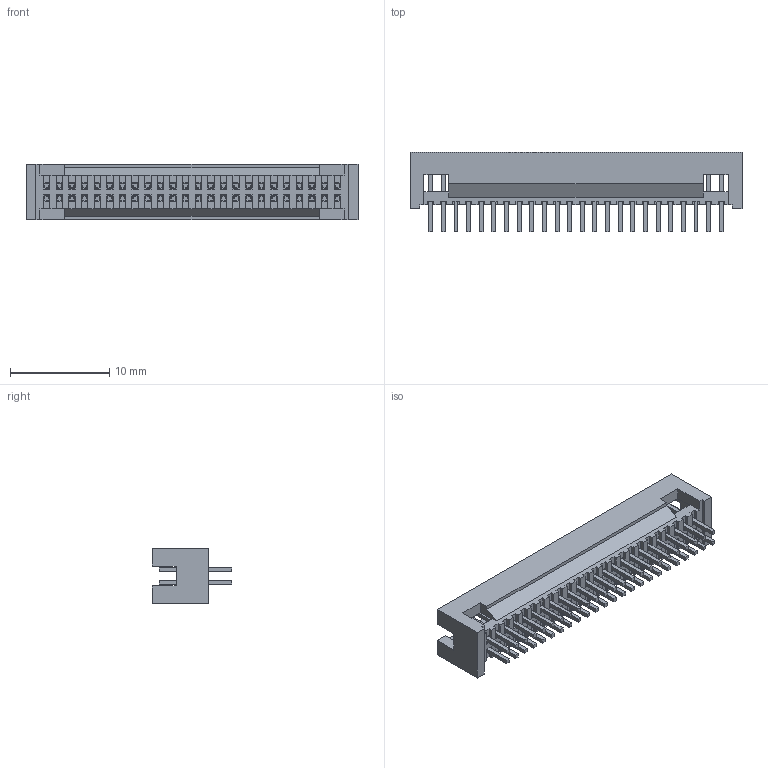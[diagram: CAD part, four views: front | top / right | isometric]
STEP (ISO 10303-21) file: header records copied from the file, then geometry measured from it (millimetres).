
FILE_DESCRIPTION (( 'STEP AP214' ), '1' );
FILE_NAME ('HC-JN127-2-24-Z-5.7-XX (潠籟1.27 邧齬 眻渀-HCTL).STEP', '2024-12-18T02:43:55', ( '' ), ( '' ), 'SwSTEP 2.0', 'SolidWorks 2022', '' );
FILE_SCHEMA (( 'AUTOMOTIVE_DESIGN' ));
Length unit declared in the file: millimetre
Products named in the file (1): HC-JN127-2-24-Z-5.7-XX (潠籟1.27 邧齬 眻渀-HCTL)
Bounding box: 33.38 x 8 x 5.6 mm (x, y, z)
Volume: 490.3 mm3; surface area: 1572.2 mm2
Topology: 1 solids, 1 shells, 907 faces, 2259 edges, 1442 vertices
Faces by surface type: plane 907
Entity records: 30884 total; most frequent: CARTESIAN_POINT 4609, ORIENTED_EDGE 4518, DIRECTION 4075, LINE 2259, EDGE_CURVE 2259, VECTOR 2259, VERTEX_POINT 1442, EDGE_LOOP 1003
